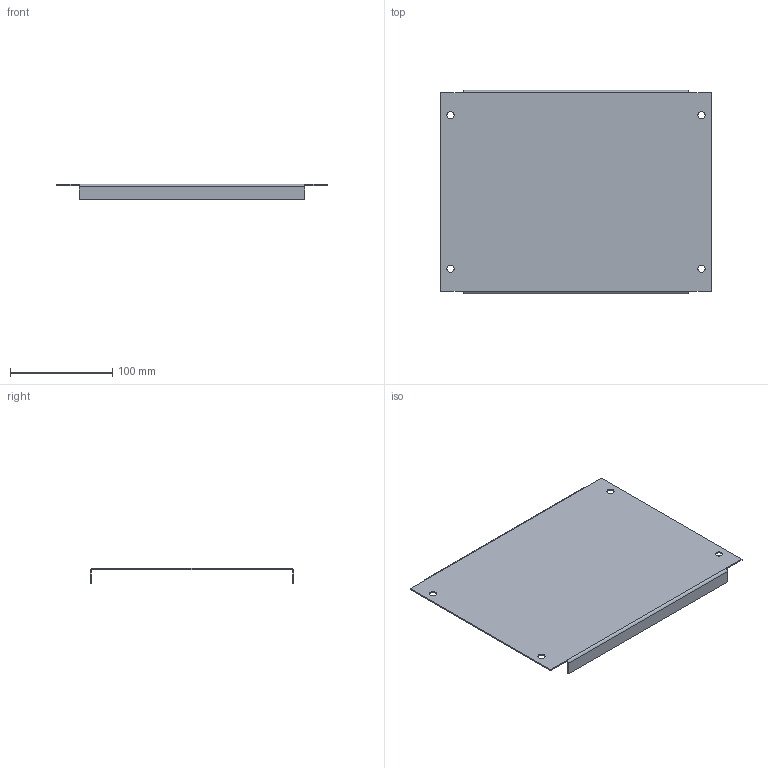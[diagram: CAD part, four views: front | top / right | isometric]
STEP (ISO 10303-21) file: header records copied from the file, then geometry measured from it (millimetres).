
FILE_DESCRIPTION (( 'STEP AP203' ), '1' );
FILE_NAME ('MB 20.30 Ïàíåëü ìîäóëüíàÿ.STEP', '2022-05-12T11:37:56', ( '' ), ( '' ), 'SwSTEP 2.0', 'SolidWorks 2018', '' );
FILE_SCHEMA (( 'CONFIG_CONTROL_DESIGN' ));
Length unit declared in the file: millimetre
Products named in the file (1): MB 20.30 Ïàíåëü ìîäóëüíàÿ
Bounding box: 265 x 199 x 15 mm (x, y, z)
Volume: 69731.4 mm3; surface area: 117500.6 mm2
Topology: 1 solids, 1 shells, 34 faces, 80 edges, 48 vertices
Faces by surface type: plane 22, cylinder 12
Entity records: 1053 total; most frequent: DIRECTION 174, CARTESIAN_POINT 163, ORIENTED_EDGE 160, EDGE_CURVE 80, AXIS2_PLACEMENT_3D 59, VECTOR 56, LINE 56, VERTEX_POINT 48
